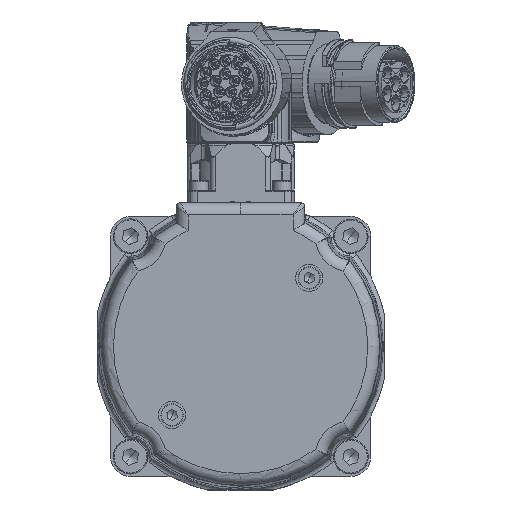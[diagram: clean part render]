
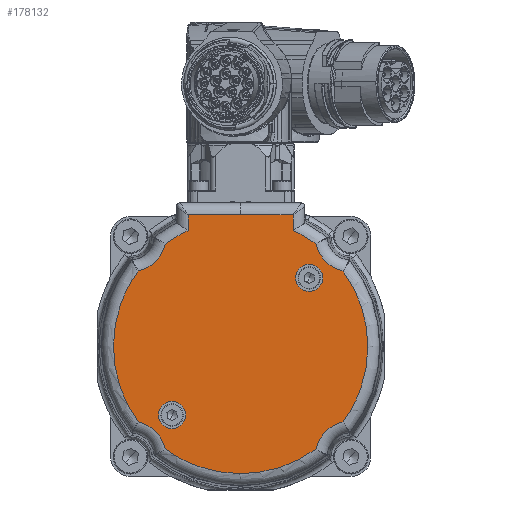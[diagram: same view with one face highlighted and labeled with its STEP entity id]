
A CAD part, left-side view. The second image highlights one B-rep face of the part: STEP entity #178132.
In plain terms, the highlighted planar face has unit normal (-1, 0, 0).
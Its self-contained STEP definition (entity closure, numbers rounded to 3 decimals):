
#176591=CARTESIAN_POINT('Cartesian Point',(26.5,0.,26.6)) ;
#176594=CARTESIAN_POINT('Line Origine',(26.5,0.,26.6)) ;
#176598=CARTESIAN_POINT('Cartesian Point',(26.5,-10.6,26.6)) ;
#176791=CARTESIAN_POINT('Line Origine',(26.5,-10.6,1.65)) ;
#176795=CARTESIAN_POINT('Cartesian Point',(26.5,-10.6,23.412)) ;
#176822=CARTESIAN_POINT('Axis2P3D Location',(26.5,0.,0.)) ;
#176826=CARTESIAN_POINT('Cartesian Point',(26.5,-15.253,20.684)) ;
#176939=CARTESIAN_POINT('Axis2P3D Location',(26.5,-22.25,22.25)) ;
#176943=CARTESIAN_POINT('Cartesian Point',(26.5,-20.684,15.253)) ;
#177056=CARTESIAN_POINT('Axis2P3D Location',(26.5,0.,0.)) ;
#177060=CARTESIAN_POINT('Cartesian Point',(26.5,-24.28,-8.425)) ;
#177063=CARTESIAN_POINT('Axis2P3D Location',(26.5,0.,0.)) ;
#177067=CARTESIAN_POINT('Cartesian Point',(26.5,-20.684,-15.253)) ;
#177181=CARTESIAN_POINT('Axis2P3D Location',(26.5,-22.25,-22.25)) ;
#177185=CARTESIAN_POINT('Cartesian Point',(26.5,-15.253,-20.684)) ;
#177298=CARTESIAN_POINT('Axis2P3D Location',(26.5,0.,0.)) ;
#177302=CARTESIAN_POINT('Cartesian Point',(26.5,8.425,-24.28)) ;
#177305=CARTESIAN_POINT('Axis2P3D Location',(26.5,0.,0.)) ;
#177309=CARTESIAN_POINT('Cartesian Point',(26.5,15.253,-20.684)) ;
#177423=CARTESIAN_POINT('Axis2P3D Location',(26.5,22.25,-22.25)) ;
#177427=CARTESIAN_POINT('Cartesian Point',(26.5,20.684,-15.253)) ;
#177540=CARTESIAN_POINT('Axis2P3D Location',(26.5,0.,0.)) ;
#177544=CARTESIAN_POINT('Cartesian Point',(26.5,24.28,8.425)) ;
#177547=CARTESIAN_POINT('Axis2P3D Location',(26.5,0.,0.)) ;
#177551=CARTESIAN_POINT('Cartesian Point',(26.5,20.684,15.253)) ;
#177665=CARTESIAN_POINT('Axis2P3D Location',(26.5,22.25,22.25)) ;
#177669=CARTESIAN_POINT('Cartesian Point',(26.5,15.253,20.684)) ;
#177782=CARTESIAN_POINT('Line Origine',(26.5,10.6,1.65)) ;
#177786=CARTESIAN_POINT('Cartesian Point',(26.5,10.6,23.412)) ;
#177788=CARTESIAN_POINT('Cartesian Point',(26.5,10.6,26.6)) ;
#177826=CARTESIAN_POINT('Axis2P3D Location',(26.5,0.,0.)) ;
#177924=CARTESIAN_POINT('Line Origine',(26.5,0.,26.6)) ;
#178073=CARTESIAN_POINT('Axis2P3D Location',(26.5,0.,0.)) ;
#178096=CARTESIAN_POINT('Axis2P3D Location',(26.5,-13.852,13.852)) ;
#178100=CARTESIAN_POINT('Cartesian Point',(26.5,-16.602,13.852)) ;
#178102=CARTESIAN_POINT('Cartesian Point',(26.5,-11.102,13.852)) ;
#178105=CARTESIAN_POINT('Axis2P3D Location',(26.5,-13.852,13.852)) ;
#178114=CARTESIAN_POINT('Axis2P3D Location',(26.5,13.852,-13.852)) ;
#178118=CARTESIAN_POINT('Cartesian Point',(26.5,11.102,-13.852)) ;
#178120=CARTESIAN_POINT('Cartesian Point',(26.5,16.602,-13.852)) ;
#178123=CARTESIAN_POINT('Axis2P3D Location',(26.5,13.852,-13.852)) ;
#176595=DIRECTION('Vector Direction',(0.,-1.,0.)) ;
#176792=DIRECTION('Vector Direction',(0.,0.,-1.)) ;
#176823=DIRECTION('Axis2P3D Direction',(1.,0.,0.)) ;
#176940=DIRECTION('Axis2P3D Direction',(1.,0.,0.)) ;
#177057=DIRECTION('Axis2P3D Direction',(1.,0.,0.)) ;
#177064=DIRECTION('Axis2P3D Direction',(1.,0.,0.)) ;
#177182=DIRECTION('Axis2P3D Direction',(1.,0.,0.)) ;
#177299=DIRECTION('Axis2P3D Direction',(1.,0.,0.)) ;
#177306=DIRECTION('Axis2P3D Direction',(1.,0.,0.)) ;
#177424=DIRECTION('Axis2P3D Direction',(1.,0.,0.)) ;
#177541=DIRECTION('Axis2P3D Direction',(1.,0.,0.)) ;
#177548=DIRECTION('Axis2P3D Direction',(1.,0.,0.)) ;
#177666=DIRECTION('Axis2P3D Direction',(1.,0.,0.)) ;
#177783=DIRECTION('Vector Direction',(0.,0.,-1.)) ;
#177827=DIRECTION('Axis2P3D Direction',(1.,0.,0.)) ;
#177925=DIRECTION('Vector Direction',(0.,-1.,0.)) ;
#178074=DIRECTION('Axis2P3D Direction',(1.,0.,0.)) ;
#178075=DIRECTION('Axis2P3D XDirection',(0.,1.,0.)) ;
#178097=DIRECTION('Axis2P3D Direction',(1.,0.,0.)) ;
#178106=DIRECTION('Axis2P3D Direction',(1.,0.,0.)) ;
#178115=DIRECTION('Axis2P3D Direction',(1.,0.,0.)) ;
#178124=DIRECTION('Axis2P3D Direction',(1.,0.,0.)) ;
#176824=AXIS2_PLACEMENT_3D('Circle Axis2P3D',#176822,#176823,$) ;
#176941=AXIS2_PLACEMENT_3D('Circle Axis2P3D',#176939,#176940,$) ;
#177058=AXIS2_PLACEMENT_3D('Circle Axis2P3D',#177056,#177057,$) ;
#177065=AXIS2_PLACEMENT_3D('Circle Axis2P3D',#177063,#177064,$) ;
#177183=AXIS2_PLACEMENT_3D('Circle Axis2P3D',#177181,#177182,$) ;
#177300=AXIS2_PLACEMENT_3D('Circle Axis2P3D',#177298,#177299,$) ;
#177307=AXIS2_PLACEMENT_3D('Circle Axis2P3D',#177305,#177306,$) ;
#177425=AXIS2_PLACEMENT_3D('Circle Axis2P3D',#177423,#177424,$) ;
#177542=AXIS2_PLACEMENT_3D('Circle Axis2P3D',#177540,#177541,$) ;
#177549=AXIS2_PLACEMENT_3D('Circle Axis2P3D',#177547,#177548,$) ;
#177667=AXIS2_PLACEMENT_3D('Circle Axis2P3D',#177665,#177666,$) ;
#177828=AXIS2_PLACEMENT_3D('Circle Axis2P3D',#177826,#177827,$) ;
#178076=AXIS2_PLACEMENT_3D('Plane Axis2P3D',#178073,#178074,#178075) ;
#178098=AXIS2_PLACEMENT_3D('Circle Axis2P3D',#178096,#178097,$) ;
#178107=AXIS2_PLACEMENT_3D('Circle Axis2P3D',#178105,#178106,$) ;
#178116=AXIS2_PLACEMENT_3D('Circle Axis2P3D',#178114,#178115,$) ;
#178125=AXIS2_PLACEMENT_3D('Circle Axis2P3D',#178123,#178124,$) ;
#178079=ORIENTED_EDGE('Oriented Edge',*,*,#176797,.F.) ;
#178080=ORIENTED_EDGE('Oriented Edge',*,*,#176600,.F.) ;
#178081=ORIENTED_EDGE('Oriented Edge',*,*,#177928,.F.) ;
#178082=ORIENTED_EDGE('Oriented Edge',*,*,#177790,.F.) ;
#178083=ORIENTED_EDGE('Oriented Edge',*,*,#177830,.T.) ;
#178084=ORIENTED_EDGE('Oriented Edge',*,*,#177671,.T.) ;
#178085=ORIENTED_EDGE('Oriented Edge',*,*,#177553,.T.) ;
#178086=ORIENTED_EDGE('Oriented Edge',*,*,#177546,.T.) ;
#178087=ORIENTED_EDGE('Oriented Edge',*,*,#177429,.T.) ;
#178088=ORIENTED_EDGE('Oriented Edge',*,*,#177311,.T.) ;
#178089=ORIENTED_EDGE('Oriented Edge',*,*,#177304,.T.) ;
#178090=ORIENTED_EDGE('Oriented Edge',*,*,#177187,.T.) ;
#178091=ORIENTED_EDGE('Oriented Edge',*,*,#177069,.T.) ;
#178092=ORIENTED_EDGE('Oriented Edge',*,*,#177062,.T.) ;
#178093=ORIENTED_EDGE('Oriented Edge',*,*,#176945,.T.) ;
#178094=ORIENTED_EDGE('Oriented Edge',*,*,#176828,.F.) ;
#178111=ORIENTED_EDGE('Oriented Edge',*,*,#178104,.F.) ;
#178112=ORIENTED_EDGE('Oriented Edge',*,*,#178109,.F.) ;
#178129=ORIENTED_EDGE('Oriented Edge',*,*,#178122,.F.) ;
#178130=ORIENTED_EDGE('Oriented Edge',*,*,#178127,.F.) ;
#178113=FACE_BOUND('Face Bound',#178110,.T.) ;
#178131=FACE_BOUND('Face Bound',#178128,.T.) ;
#176596=VECTOR('Line Direction',#176595,1.) ;
#176793=VECTOR('Line Direction',#176792,1.) ;
#177784=VECTOR('Line Direction',#177783,1.) ;
#177926=VECTOR('Line Direction',#177925,1.) ;
#178132=ADVANCED_FACE('',(#178095,#178113,#178131),#178077,.F.) ;
#176825=CIRCLE('generated circle',#176824,25.7) ;
#176942=CIRCLE('generated circle',#176941,7.17) ;
#177059=CIRCLE('generated circle',#177058,25.7) ;
#177066=CIRCLE('generated circle',#177065,25.7) ;
#177184=CIRCLE('generated circle',#177183,7.17) ;
#177301=CIRCLE('generated circle',#177300,25.7) ;
#177308=CIRCLE('generated circle',#177307,25.7) ;
#177426=CIRCLE('generated circle',#177425,7.17) ;
#177543=CIRCLE('generated circle',#177542,25.7) ;
#177550=CIRCLE('generated circle',#177549,25.7) ;
#177668=CIRCLE('generated circle',#177667,7.17) ;
#177829=CIRCLE('generated circle',#177828,25.7) ;
#178099=CIRCLE('generated circle',#178098,2.75) ;
#178108=CIRCLE('generated circle',#178107,2.75) ;
#178117=CIRCLE('generated circle',#178116,2.75) ;
#178126=CIRCLE('generated circle',#178125,2.75) ;
#176600=EDGE_CURVE('',#176592,#176599,#176597,.T.) ;
#176797=EDGE_CURVE('',#176599,#176796,#176794,.T.) ;
#176828=EDGE_CURVE('',#176796,#176827,#176825,.T.) ;
#176945=EDGE_CURVE('',#176944,#176827,#176942,.T.) ;
#177062=EDGE_CURVE('',#177061,#176944,#177059,.F.) ;
#177069=EDGE_CURVE('',#177068,#177061,#177066,.F.) ;
#177187=EDGE_CURVE('',#177186,#177068,#177184,.T.) ;
#177304=EDGE_CURVE('',#177303,#177186,#177301,.F.) ;
#177311=EDGE_CURVE('',#177310,#177303,#177308,.F.) ;
#177429=EDGE_CURVE('',#177428,#177310,#177426,.T.) ;
#177546=EDGE_CURVE('',#177545,#177428,#177543,.F.) ;
#177553=EDGE_CURVE('',#177552,#177545,#177550,.F.) ;
#177671=EDGE_CURVE('',#177670,#177552,#177668,.T.) ;
#177790=EDGE_CURVE('',#177787,#177789,#177785,.F.) ;
#177830=EDGE_CURVE('',#177787,#177670,#177829,.F.) ;
#177928=EDGE_CURVE('',#177789,#176592,#177927,.T.) ;
#178104=EDGE_CURVE('',#178101,#178103,#178099,.F.) ;
#178109=EDGE_CURVE('',#178103,#178101,#178108,.F.) ;
#178122=EDGE_CURVE('',#178119,#178121,#178117,.F.) ;
#178127=EDGE_CURVE('',#178121,#178119,#178126,.F.) ;
#178078=EDGE_LOOP('Oriented Loop',(#178079,#178080,#178081,#178082,#178083,#178084,#178085,#178086,#178087,#178088,#178089,#178090,#178091,#178092,#178093,#178094)) ;
#178110=EDGE_LOOP('Oriented Loop',(#178111,#178112)) ;
#178128=EDGE_LOOP('Oriented Loop',(#178129,#178130)) ;
#178095=FACE_OUTER_BOUND('Face Bound',#178078,.T.) ;
#176597=LINE('Line',#176594,#176596) ;
#176794=LINE('Line',#176791,#176793) ;
#177785=LINE('Line',#177782,#177784) ;
#177927=LINE('Line',#177924,#177926) ;
#178077=PLANE('Plane',#178076) ;
#176592=VERTEX_POINT('Vertex Point',#176591) ;
#176599=VERTEX_POINT('Vertex Point',#176598) ;
#176796=VERTEX_POINT('Vertex Point',#176795) ;
#176827=VERTEX_POINT('Vertex Point',#176826) ;
#176944=VERTEX_POINT('Vertex Point',#176943) ;
#177061=VERTEX_POINT('Vertex Point',#177060) ;
#177068=VERTEX_POINT('Vertex Point',#177067) ;
#177186=VERTEX_POINT('Vertex Point',#177185) ;
#177303=VERTEX_POINT('Vertex Point',#177302) ;
#177310=VERTEX_POINT('Vertex Point',#177309) ;
#177428=VERTEX_POINT('Vertex Point',#177427) ;
#177545=VERTEX_POINT('Vertex Point',#177544) ;
#177552=VERTEX_POINT('Vertex Point',#177551) ;
#177670=VERTEX_POINT('Vertex Point',#177669) ;
#177787=VERTEX_POINT('Vertex Point',#177786) ;
#177789=VERTEX_POINT('Vertex Point',#177788) ;
#178101=VERTEX_POINT('Vertex Point',#178100) ;
#178103=VERTEX_POINT('Vertex Point',#178102) ;
#178119=VERTEX_POINT('Vertex Point',#178118) ;
#178121=VERTEX_POINT('Vertex Point',#178120) ;
